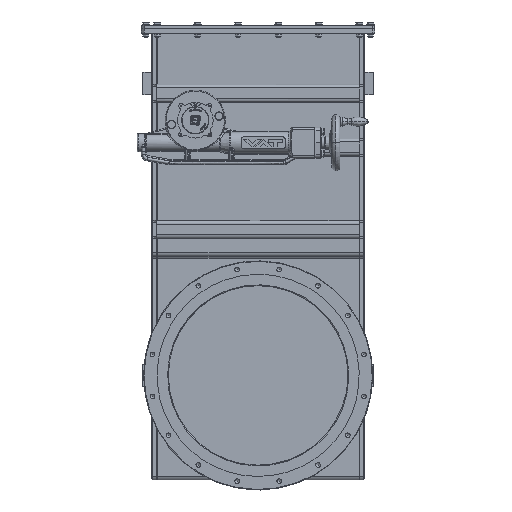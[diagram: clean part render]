
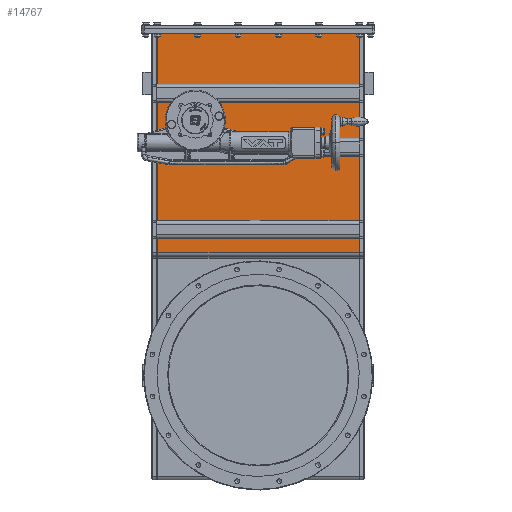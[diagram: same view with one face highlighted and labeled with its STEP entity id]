
A CAD part, top view. The second image highlights one B-rep face of the part: STEP entity #14767.
In plain terms, the highlighted planar face has unit normal (0, 0, 1).
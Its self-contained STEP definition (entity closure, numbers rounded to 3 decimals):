
#8690=LINE('',#41243,#9856);
#8692=LINE('',#41249,#9858);
#8693=LINE('',#41251,#9859);
#8694=LINE('',#41253,#9860);
#8695=LINE('',#41255,#9861);
#8696=LINE('',#41257,#9862);
#9856=VECTOR('',#35274,1.);
#9858=VECTOR('',#35280,1.);
#9859=VECTOR('',#35281,1.);
#9860=VECTOR('',#35282,1.);
#9861=VECTOR('',#35283,1.);
#9862=VECTOR('',#35284,1.);
#13155=PLANE('',#31878);
#14767=ADVANCED_FACE('',(#16479,#16480),#13155,.F.);
#16479=FACE_BOUND('',#17804,.T.);
#16480=FACE_BOUND('',#17805,.T.);
#17804=EDGE_LOOP('',(#20795));
#17805=EDGE_LOOP('',(#20796,#20797,#20798,#20799,#20800,#20801));
#20795=ORIENTED_EDGE('',*,*,#28046,.T.);
#20796=ORIENTED_EDGE('',*,*,#28044,.T.);
#20797=ORIENTED_EDGE('',*,*,#28047,.T.);
#20798=ORIENTED_EDGE('',*,*,#28048,.T.);
#20799=ORIENTED_EDGE('',*,*,#28049,.F.);
#20800=ORIENTED_EDGE('',*,*,#28050,.F.);
#20801=ORIENTED_EDGE('',*,*,#28051,.T.);
#25730=VERTEX_POINT('',#41242);
#25731=VERTEX_POINT('',#41244);
#25732=VERTEX_POINT('',#41248);
#25733=VERTEX_POINT('',#41250);
#25734=VERTEX_POINT('',#41252);
#25735=VERTEX_POINT('',#41254);
#25736=VERTEX_POINT('',#41256);
#28044=EDGE_CURVE('',#25731,#25730,#8690,.T.);
#28046=EDGE_CURVE('',#25732,#25732,#30468,.T.);
#28047=EDGE_CURVE('',#25730,#25733,#8692,.T.);
#28048=EDGE_CURVE('',#25733,#25734,#8693,.T.);
#28049=EDGE_CURVE('',#25735,#25734,#8694,.T.);
#28050=EDGE_CURVE('',#25736,#25735,#8695,.T.);
#28051=EDGE_CURVE('',#25736,#25731,#8696,.T.);
#30468=CIRCLE('',#31877,27.55);
#31877=AXIS2_PLACEMENT_3D('',#41247,#35278,#35279);
#31878=AXIS2_PLACEMENT_3D('',#41258,#35285,#35286);
#35274=DIRECTION('',(0.,1.,0.));
#35278=DIRECTION('',(0.,0.,-1.));
#35279=DIRECTION('',(-1.,0.,0.));
#35280=DIRECTION('',(-0.707,0.707,0.));
#35281=DIRECTION('',(-1.,0.,0.));
#35282=DIRECTION('',(0.,1.,0.));
#35283=DIRECTION('',(-1.,0.,0.));
#35284=DIRECTION('',(0.707,0.707,0.));
#35285=DIRECTION('',(0.,0.,-1.));
#35286=DIRECTION('',(1.,0.,0.));
#41242=CARTESIAN_POINT('',(-10.,223.75,47.));
#41243=CARTESIAN_POINT('',(-10.,-225.75,47.));
#41244=CARTESIAN_POINT('',(-10.,-223.75,47.));
#41247=CARTESIAN_POINT('',(-204.,140.,47.));
#41248=CARTESIAN_POINT('',(-231.55,140.,47.));
#41249=CARTESIAN_POINT('',(-10.,223.75,47.));
#41250=CARTESIAN_POINT('',(-12.,225.75,47.));
#41251=CARTESIAN_POINT('',(-10.,225.75,47.));
#41252=CARTESIAN_POINT('',(-499.,225.75,47.));
#41253=CARTESIAN_POINT('',(-499.,-225.75,47.));
#41254=CARTESIAN_POINT('',(-499.,-225.75,47.));
#41255=CARTESIAN_POINT('',(-10.,-225.75,47.));
#41256=CARTESIAN_POINT('',(-12.,-225.75,47.));
#41257=CARTESIAN_POINT('',(-12.,-225.75,47.));
#41258=CARTESIAN_POINT('',(-10.,-225.75,47.));
